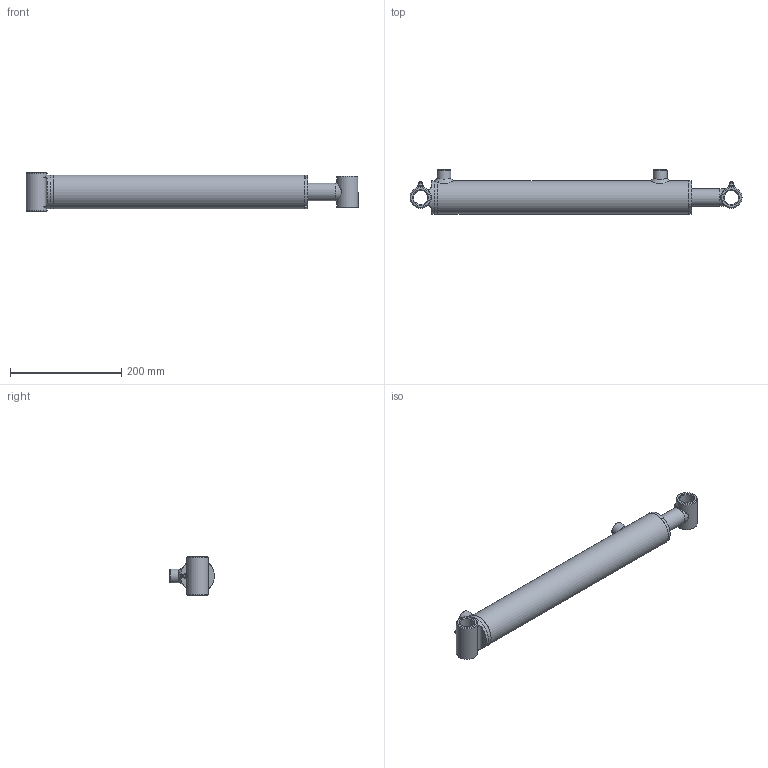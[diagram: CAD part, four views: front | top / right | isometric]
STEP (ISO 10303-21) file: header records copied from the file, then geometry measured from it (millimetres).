
FILE_DESCRIPTION(/* description */ (''),/* implementation_level */ '2;1');
FILE_NAME(/* name */ 'C:\01 - Philip\00 - Philip Rivard\01 - Contracts\Eagle Hydraulic Components\00 - 3D Cylinder\01 - Standard\HBU\HBU20XX\STEP\HBU2014.stp',/* time_stamp */ '2015-05-19T20:01:32-04:00',/* author */ ('Philip'),/* organization */ (''),/* preprocessor_version */ 'ST-DEVELOPER v16.1',/* originating_system */ 'Autodesk Inventor 2016',/* authorisation */ '');
FILE_SCHEMA (('AUTOMOTIVE_DESIGN { 1 0 10303 214 3 1 1 }'));
Length unit declared in the file: inch
Products named in the file (12): Tube_Welding_Welds; ECP-20-HBU; Tube; Straight_Port; Gland; Grease Fitting 1-8; Tube_Welding; Rod_Welding_Welds; Rod; Bushing; Rod_Welding; Cylinder_Assembly
Assembly tree (13 placements, depth 3):
  Cylinder_Assembly
    Tube_Welding
      Tube_Welding_Welds
      ECP-20-HBU
      Tube
      Straight_Port  x2
      Gland
      Grease Fitting 1-8
    Rod_Welding
      Rod_Welding_Welds
      Rod
      Bushing
      Grease Fitting 1-8
Bounding box: 596.9 x 80.33 x 69.8 mm (x, y, z)
Volume: 939797.6 mm3; surface area: 275258.8 mm2
Topology: 12 solids, 12 shells, 197 faces, 429 edges, 260 vertices
Faces by surface type: cone 65, plane 55, cylinder 50, torus 15, bspline 10, sphere 2
Full cylindrical faces by diameter (mm): 4 x2, 5 x1, 7.5 x2, 8 x2, 10 x2, 12.751 x2, 22 x1, 25 x4, 25.4 x2, 25.65 x2, 26 x1, 26.25 x1, 31.75 x2, 38.1 x2, 43 x1, 44.45 x1, 50.546 x1, 50.75 x1, 50.8 x1, 51 x1, 55 x4, 60.3 x1, 60.325 x1
Entity records: 6048 total; most frequent: CARTESIAN_POINT 2858, DIRECTION 631, ORIENTED_EDGE 486, AXIS2_PLACEMENT_3D 293, EDGE_LOOP 270, EDGE_CURVE 243, VERTEX_POINT 191, ADVANCED_FACE 157
